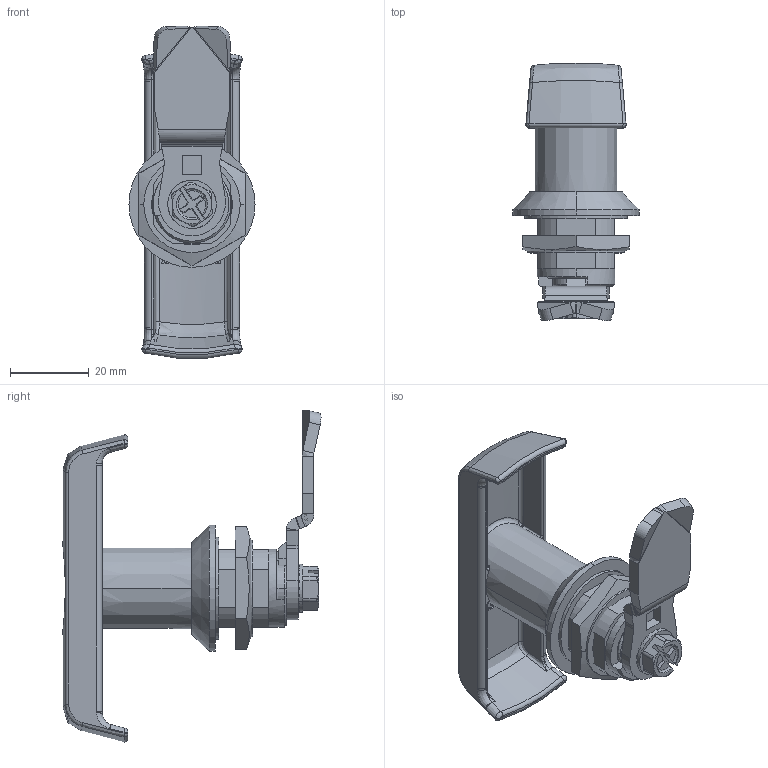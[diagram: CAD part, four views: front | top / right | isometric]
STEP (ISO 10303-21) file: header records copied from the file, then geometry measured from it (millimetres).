
FILE_DESCRIPTION (( 'STEP AP203' ), '1' );
FILE_NAME ('2.T18.105(6).STEP', '2022-02-12T09:08:34', ( '' ), ( '' ), 'SwSTEP 2.0', 'SolidWorks 2021', '' );
FILE_SCHEMA (( 'CONFIG_CONTROL_DESIGN' ));
Length unit declared in the file: millimetre
Products named in the file (9): 2.T18.001.01_B; DIN 3771_13x3,5; 2.IP65.003_A; 1C.J-1XX.H.L_#3, 1.75.22.45; S6PZ_M6x8; 2.T18.105(6); 2.NKR_M22 - A; P.015227_00-01; 5.R00.264_A
Assembly tree (8 placements, depth 2):
  2.T18.105(6)
    P.015227_00-01
    2.T18.001.01_B
    1C.J-1XX.H.L_#3, 1.75.22.45
    DIN 3771_13x3,5
    S6PZ_M6x8
    5.R00.264_A
    2.IP65.003_A
    2.NKR_M22 - A
Bounding box: 32 x 65.52 x 84.31 mm (x, y, z)
Volume: 26597.9 mm3; surface area: 21516.3 mm2
Topology: 8 solids, 8 shells, 615 faces, 1570 edges, 972 vertices
Faces by surface type: plane 235, bspline 179, cylinder 96, cone 64, torus 37, sphere 4
Entity records: 27562 total; most frequent: CARTESIAN_POINT 13431, ORIENTED_EDGE 3116, DIRECTION 2245, EDGE_CURVE 1558, VERTEX_POINT 972, AXIS2_PLACEMENT_3D 833, EDGE_LOOP 648, FACE_OUTER_BOUND 615
